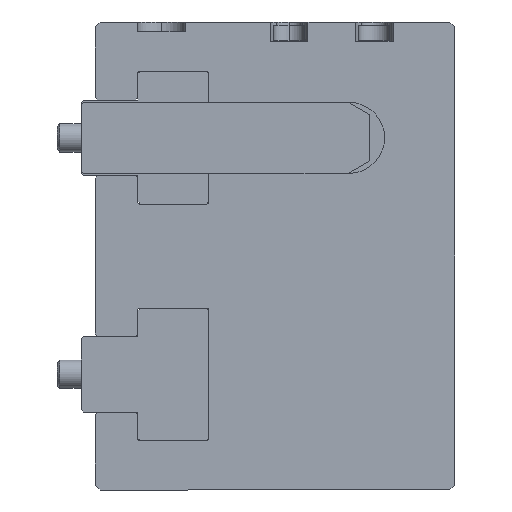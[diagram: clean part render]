
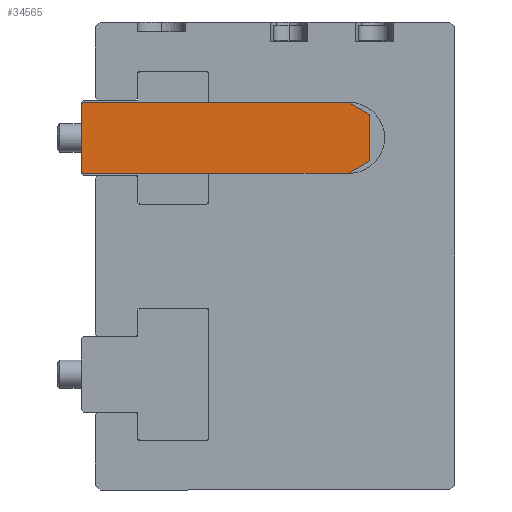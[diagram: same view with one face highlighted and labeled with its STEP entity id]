
A CAD part, left-side view. The second image highlights one B-rep face of the part: STEP entity #34565.
In plain terms, the highlighted planar face has unit normal (-1, 0, 0).
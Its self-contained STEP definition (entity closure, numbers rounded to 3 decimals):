
#284 = LINE ( 'NONE', #40471, #18716 ) ;
#1210 = VERTEX_POINT ( 'NONE', #10930 ) ;
#1333 = VECTOR ( 'NONE', #46006, 1000. ) ;
#2283 = VECTOR ( 'NONE', #39771, 1000. ) ;
#3537 = ORIENTED_EDGE ( 'NONE', *, *, #14173, .T. ) ;
#4416 = VERTEX_POINT ( 'NONE', #24022 ) ;
#4572 = LINE ( 'NONE', #32711, #2283 ) ;
#6688 = VERTEX_POINT ( 'NONE', #38260 ) ;
#7008 = DIRECTION ( 'NONE',  ( 0., 0.866, 0.5 ) ) ;
#8155 = DIRECTION ( 'NONE',  ( 0., 0., -1. ) ) ;
#8338 = LINE ( 'NONE', #43976, #27928 ) ;
#8525 = CARTESIAN_POINT ( 'NONE',  ( -112., 26.499, -7.5 ) ) ;
#9633 = VERTEX_POINT ( 'NONE', #28396 ) ;
#9774 = EDGE_CURVE ( 'NONE', #39830, #4416, #24035, .T. ) ;
#10930 = CARTESIAN_POINT ( 'NONE',  ( -112., 26.999, 7. ) ) ;
#11103 = LINE ( 'NONE', #20482, #1333 ) ;
#11748 = DIRECTION ( 'NONE',  ( 0., -0.866, 0.5 ) ) ;
#13186 = LINE ( 'NONE', #29025, #21833 ) ;
#14173 = EDGE_CURVE ( 'NONE', #6688, #1210, #284, .T. ) ;
#14395 = LINE ( 'NONE', #30164, #15544 ) ;
#15460 = CARTESIAN_POINT ( 'NONE',  ( -112., -34., -4.902 ) ) ;
#15544 = VECTOR ( 'NONE', #8155, 1000. ) ;
#16872 = EDGE_LOOP ( 'NONE', ( #3537, #37491, #44956, #34836, #39508, #22257, #26339, #30030 ) ) ;
#18044 = FACE_OUTER_BOUND ( 'NONE', #16872, .T. ) ;
#18313 = DIRECTION ( 'NONE',  ( 0., 1., 0. ) ) ;
#18444 = CARTESIAN_POINT ( 'NONE',  ( -112., -34., 4.902 ) ) ;
#18698 = VERTEX_POINT ( 'NONE', #23420 ) ;
#18716 = VECTOR ( 'NONE', #44173, 1000. ) ;
#20140 = EDGE_CURVE ( 'NONE', #1210, #44068, #14395, .T. ) ;
#20482 = CARTESIAN_POINT ( 'NONE',  ( -112., 26.999, -7. ) ) ;
#21202 = DIRECTION ( 'NONE',  ( -1., 0., 0. ) ) ;
#21833 = VECTOR ( 'NONE', #7008, 1000. ) ;
#22257 = ORIENTED_EDGE ( 'NONE', *, *, #25492, .T. ) ;
#22741 = AXIS2_PLACEMENT_3D ( 'NONE', #43158, #21202, #46880 ) ;
#23420 = CARTESIAN_POINT ( 'NONE',  ( -112., -29.5, 7.5 ) ) ;
#24022 = CARTESIAN_POINT ( 'NONE',  ( -112., -34., -4.902 ) ) ;
#24035 = LINE ( 'NONE', #15460, #40085 ) ;
#25478 = EDGE_CURVE ( 'NONE', #28923, #18698, #13186, .T. ) ;
#25492 = EDGE_CURVE ( 'NONE', #4416, #28923, #4572, .T. ) ;
#25991 = EDGE_CURVE ( 'NONE', #9633, #39830, #31010, .T. ) ;
#26339 = ORIENTED_EDGE ( 'NONE', *, *, #25478, .T. ) ;
#26815 = CARTESIAN_POINT ( 'NONE',  ( -112., -29.5, -7.5 ) ) ;
#27928 = VECTOR ( 'NONE', #18313, 1000. ) ;
#28396 = CARTESIAN_POINT ( 'NONE',  ( -112., 26.499, -7.5 ) ) ;
#28923 = VERTEX_POINT ( 'NONE', #18444 ) ;
#29025 = CARTESIAN_POINT ( 'NONE',  ( -112., -34., 4.902 ) ) ;
#30030 = ORIENTED_EDGE ( 'NONE', *, *, #41887, .T. ) ;
#30164 = CARTESIAN_POINT ( 'NONE',  ( -112., 26.999, -7. ) ) ;
#30858 = DIRECTION ( 'NONE',  ( 0., -1., 0. ) ) ;
#31010 = LINE ( 'NONE', #8525, #39605 ) ;
#32711 = CARTESIAN_POINT ( 'NONE',  ( -112., -34., -4.902 ) ) ;
#34565 = ADVANCED_FACE ( 'NONE', ( #18044 ), #35787, .T. ) ;
#34836 = ORIENTED_EDGE ( 'NONE', *, *, #25991, .T. ) ;
#35787 = PLANE ( 'NONE',  #22741 ) ;
#35833 = CARTESIAN_POINT ( 'NONE',  ( -112., 26.999, -7. ) ) ;
#37491 = ORIENTED_EDGE ( 'NONE', *, *, #20140, .T. ) ;
#38260 = CARTESIAN_POINT ( 'NONE',  ( -112., 26.499, 7.5 ) ) ;
#39508 = ORIENTED_EDGE ( 'NONE', *, *, #9774, .T. ) ;
#39605 = VECTOR ( 'NONE', #30858, 1000. ) ;
#39771 = DIRECTION ( 'NONE',  ( 0., 0., 1. ) ) ;
#39830 = VERTEX_POINT ( 'NONE', #26815 ) ;
#40085 = VECTOR ( 'NONE', #11748, 1000. ) ;
#40471 = CARTESIAN_POINT ( 'NONE',  ( -112., 26.999, 7. ) ) ;
#41887 = EDGE_CURVE ( 'NONE', #18698, #6688, #8338, .T. ) ;
#43158 = CARTESIAN_POINT ( 'NONE',  ( -112., 33.999, 0. ) ) ;
#43976 = CARTESIAN_POINT ( 'NONE',  ( -112., 26.499, 7.5 ) ) ;
#44068 = VERTEX_POINT ( 'NONE', #35833 ) ;
#44173 = DIRECTION ( 'NONE',  ( 0., 0.707, -0.707 ) ) ;
#44956 = ORIENTED_EDGE ( 'NONE', *, *, #45874, .T. ) ;
#45874 = EDGE_CURVE ( 'NONE', #44068, #9633, #11103, .T. ) ;
#46006 = DIRECTION ( 'NONE',  ( 0., -0.707, -0.707 ) ) ;
#46880 = DIRECTION ( 'NONE',  ( 0., 0., 1. ) ) ;
